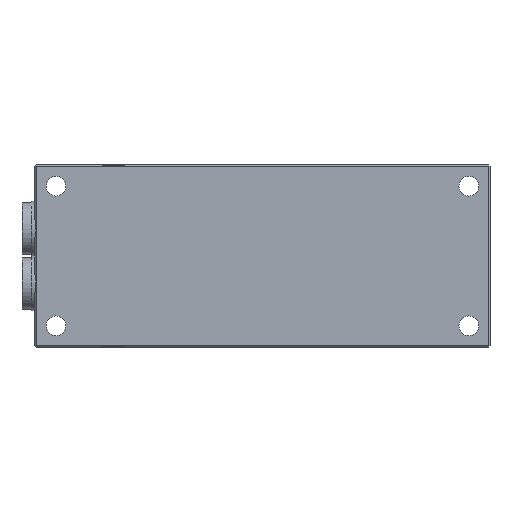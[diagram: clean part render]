
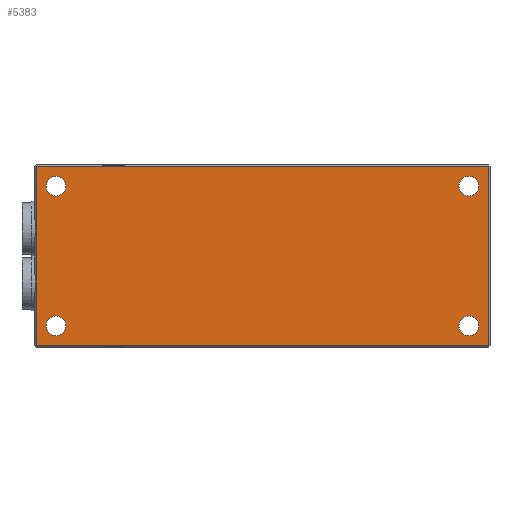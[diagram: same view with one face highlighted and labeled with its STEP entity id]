
A CAD part, front view. The second image highlights one B-rep face of the part: STEP entity #5383.
In plain terms, the highlighted planar face has unit normal (0, -1, 0).
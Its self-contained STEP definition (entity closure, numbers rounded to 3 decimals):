
#6 = CARTESIAN_POINT ( 'NONE',  ( -68., -19., 23. ) ) ;
#37 = FACE_BOUND ( 'NONE', #14368, .T. ) ;
#102 = EDGE_CURVE ( 'NONE', #3027, #8320, #4699, .T. ) ;
#201 = ORIENTED_EDGE ( 'NONE', *, *, #12871, .F. ) ;
#278 = CIRCLE ( 'NONE', #15119, 3.25 ) ;
#338 = CARTESIAN_POINT ( 'NONE',  ( 68., -19., -23. ) ) ;
#721 = CARTESIAN_POINT ( 'NONE',  ( -68., -19., -26.25 ) ) ;
#729 = DIRECTION ( 'NONE',  ( 0., 0., -1. ) ) ;
#742 = CARTESIAN_POINT ( 'NONE',  ( 74.5, -19., -30. ) ) ;
#944 = CARTESIAN_POINT ( 'NONE',  ( 68., -19., 23. ) ) ;
#1401 = DIRECTION ( 'NONE',  ( 0., -1., 0. ) ) ;
#1533 = DIRECTION ( 'NONE',  ( 0., 0., -1. ) ) ;
#1556 = LINE ( 'NONE', #14019, #10724 ) ;
#1749 = CARTESIAN_POINT ( 'NONE',  ( -68., -19., -23. ) ) ;
#2141 = DIRECTION ( 'NONE',  ( 0., 0., -1. ) ) ;
#2315 = ORIENTED_EDGE ( 'NONE', *, *, #102, .F. ) ;
#2699 = EDGE_CURVE ( 'NONE', #13379, #8381, #14202, .T. ) ;
#2802 = CARTESIAN_POINT ( 'NONE',  ( 68., -19., -23. ) ) ;
#2824 = ORIENTED_EDGE ( 'NONE', *, *, #9769, .F. ) ;
#2946 = DIRECTION ( 'NONE',  ( 0., 0., -1. ) ) ;
#3027 = VERTEX_POINT ( 'NONE', #12297 ) ;
#3054 = LINE ( 'NONE', #10255, #11104 ) ;
#3194 = FACE_OUTER_BOUND ( 'NONE', #11286, .T. ) ;
#3425 = ORIENTED_EDGE ( 'NONE', *, *, #13186, .T. ) ;
#3865 = ORIENTED_EDGE ( 'NONE', *, *, #14987, .F. ) ;
#3965 = CARTESIAN_POINT ( 'NONE',  ( -75., -19., -30. ) ) ;
#3981 = CARTESIAN_POINT ( 'NONE',  ( -74.5, -19., -30. ) ) ;
#4000 = CARTESIAN_POINT ( 'NONE',  ( 68., -19., 26.25 ) ) ;
#4005 = DIRECTION ( 'NONE',  ( 0., 0., -1. ) ) ;
#4376 = DIRECTION ( 'NONE',  ( 0., 0., 1. ) ) ;
#4396 = CARTESIAN_POINT ( 'NONE',  ( -68., -19., -19.75 ) ) ;
#4699 = CIRCLE ( 'NONE', #11457, 3.25 ) ;
#4745 = VERTEX_POINT ( 'NONE', #4000 ) ;
#4962 = CARTESIAN_POINT ( 'NONE',  ( -68., -19., 23. ) ) ;
#4988 = LINE ( 'NONE', #742, #8187 ) ;
#5051 = AXIS2_PLACEMENT_3D ( 'NONE', #8562, #1401, #9753 ) ;
#5157 = DIRECTION ( 'NONE',  ( 0., 0., -1. ) ) ;
#5169 = DIRECTION ( 'NONE',  ( 0., 0., -1. ) ) ;
#5383 = ADVANCED_FACE ( 'NONE', ( #3194, #12382, #37, #9204, #6359 ), #14696, .T. ) ;
#5491 = ORIENTED_EDGE ( 'NONE', *, *, #10590, .F. ) ;
#5511 = DIRECTION ( 'NONE',  ( 0., -1., 0. ) ) ;
#5670 = CARTESIAN_POINT ( 'NONE',  ( -68., -19., 26.25 ) ) ;
#5807 = ORIENTED_EDGE ( 'NONE', *, *, #12185, .T. ) ;
#5959 = ORIENTED_EDGE ( 'NONE', *, *, #13456, .F. ) ;
#6052 = CIRCLE ( 'NONE', #6997, 3.25 ) ;
#6092 = EDGE_CURVE ( 'NONE', #11563, #6803, #8258, .T. ) ;
#6165 = DIRECTION ( 'NONE',  ( 0., 0., -1. ) ) ;
#6250 = AXIS2_PLACEMENT_3D ( 'NONE', #4962, #13339, #6165 ) ;
#6300 = DIRECTION ( 'NONE',  ( 0., -1., 0. ) ) ;
#6359 = FACE_BOUND ( 'NONE', #13083, .T. ) ;
#6369 = CIRCLE ( 'NONE', #14313, 3.25 ) ;
#6803 = VERTEX_POINT ( 'NONE', #721 ) ;
#6997 = AXIS2_PLACEMENT_3D ( 'NONE', #338, #8705, #1533 ) ;
#7528 = ORIENTED_EDGE ( 'NONE', *, *, #2699, .T. ) ;
#7829 = DIRECTION ( 'NONE',  ( 1., 0., 0. ) ) ;
#7957 = CARTESIAN_POINT ( 'NONE',  ( 68., -19., -26.25 ) ) ;
#8050 = DIRECTION ( 'NONE',  ( -1., 0., 0. ) ) ;
#8080 = CARTESIAN_POINT ( 'NONE',  ( 74.5, -19., 29.5 ) ) ;
#8187 = VECTOR ( 'NONE', #4376, 1000. ) ;
#8258 = CIRCLE ( 'NONE', #14268, 3.25 ) ;
#8320 = VERTEX_POINT ( 'NONE', #5670 ) ;
#8345 = VERTEX_POINT ( 'NONE', #15239 ) ;
#8381 = VERTEX_POINT ( 'NONE', #14101 ) ;
#8562 = CARTESIAN_POINT ( 'NONE',  ( -68., -19., -23. ) ) ;
#8628 = CARTESIAN_POINT ( 'NONE',  ( -74.5, -19., 29.5 ) ) ;
#8705 = DIRECTION ( 'NONE',  ( 0., -1., 0. ) ) ;
#8848 = VERTEX_POINT ( 'NONE', #14196 ) ;
#9204 = FACE_BOUND ( 'NONE', #12418, .T. ) ;
#9301 = DIRECTION ( 'NONE',  ( 0., -1., 0. ) ) ;
#9753 = DIRECTION ( 'NONE',  ( 0., 0., -1. ) ) ;
#9769 = EDGE_CURVE ( 'NONE', #8345, #10415, #12054, .T. ) ;
#9970 = VERTEX_POINT ( 'NONE', #8080 ) ;
#10125 = DIRECTION ( 'NONE',  ( 0., -1., 0. ) ) ;
#10255 = CARTESIAN_POINT ( 'NONE',  ( 75., -19., -29.5 ) ) ;
#10415 = VERTEX_POINT ( 'NONE', #7957 ) ;
#10590 = EDGE_CURVE ( 'NONE', #8320, #3027, #12217, .T. ) ;
#10724 = VECTOR ( 'NONE', #8050, 1000. ) ;
#11006 = VECTOR ( 'NONE', #5169, 1000. ) ;
#11104 = VECTOR ( 'NONE', #7829, 1000. ) ;
#11165 = DIRECTION ( 'NONE',  ( 0., -1., 0. ) ) ;
#11286 = EDGE_LOOP ( 'NONE', ( #7528, #3425, #5807, #14687 ) ) ;
#11295 = EDGE_LOOP ( 'NONE', ( #12445, #3865 ) ) ;
#11457 = AXIS2_PLACEMENT_3D ( 'NONE', #6, #5511, #729 ) ;
#11563 = VERTEX_POINT ( 'NONE', #4396 ) ;
#12054 = CIRCLE ( 'NONE', #14405, 3.25 ) ;
#12185 = EDGE_CURVE ( 'NONE', #12923, #9970, #4988, .T. ) ;
#12217 = CIRCLE ( 'NONE', #6250, 3.25 ) ;
#12297 = CARTESIAN_POINT ( 'NONE',  ( -68., -19., 19.75 ) ) ;
#12348 = DIRECTION ( 'NONE',  ( 0., -1., 0. ) ) ;
#12382 = FACE_BOUND ( 'NONE', #11295, .T. ) ;
#12418 = EDGE_LOOP ( 'NONE', ( #5959, #12648 ) ) ;
#12445 = ORIENTED_EDGE ( 'NONE', *, *, #6092, .F. ) ;
#12648 = ORIENTED_EDGE ( 'NONE', *, *, #14606, .F. ) ;
#12871 = EDGE_CURVE ( 'NONE', #10415, #8345, #6052, .T. ) ;
#12923 = VERTEX_POINT ( 'NONE', #14758 ) ;
#13083 = EDGE_LOOP ( 'NONE', ( #2824, #201 ) ) ;
#13186 = EDGE_CURVE ( 'NONE', #8381, #12923, #3054, .T. ) ;
#13339 = DIRECTION ( 'NONE',  ( 0., -1., 0. ) ) ;
#13379 = VERTEX_POINT ( 'NONE', #8628 ) ;
#13456 = EDGE_CURVE ( 'NONE', #4745, #8848, #278, .T. ) ;
#13484 = CARTESIAN_POINT ( 'NONE',  ( 68., -19., 23. ) ) ;
#14019 = CARTESIAN_POINT ( 'NONE',  ( -75., -19., 29.5 ) ) ;
#14101 = CARTESIAN_POINT ( 'NONE',  ( -74.5, -19., -29.5 ) ) ;
#14179 = AXIS2_PLACEMENT_3D ( 'NONE', #3965, #12348, #5157 ) ;
#14196 = CARTESIAN_POINT ( 'NONE',  ( 68., -19., 19.75 ) ) ;
#14202 = LINE ( 'NONE', #3981, #11006 ) ;
#14237 = CIRCLE ( 'NONE', #5051, 3.25 ) ;
#14268 = AXIS2_PLACEMENT_3D ( 'NONE', #1749, #10125, #2946 ) ;
#14313 = AXIS2_PLACEMENT_3D ( 'NONE', #13484, #6300, #14690 ) ;
#14368 = EDGE_LOOP ( 'NONE', ( #5491, #2315 ) ) ;
#14402 = EDGE_CURVE ( 'NONE', #9970, #13379, #1556, .T. ) ;
#14405 = AXIS2_PLACEMENT_3D ( 'NONE', #2802, #11165, #4005 ) ;
#14606 = EDGE_CURVE ( 'NONE', #8848, #4745, #6369, .T. ) ;
#14687 = ORIENTED_EDGE ( 'NONE', *, *, #14402, .T. ) ;
#14690 = DIRECTION ( 'NONE',  ( 0., 0., -1. ) ) ;
#14696 = PLANE ( 'NONE',  #14179 ) ;
#14758 = CARTESIAN_POINT ( 'NONE',  ( 74.5, -19., -29.5 ) ) ;
#14987 = EDGE_CURVE ( 'NONE', #6803, #11563, #14237, .T. ) ;
#15119 = AXIS2_PLACEMENT_3D ( 'NONE', #944, #9301, #2141 ) ;
#15239 = CARTESIAN_POINT ( 'NONE',  ( 68., -19., -19.75 ) ) ;
